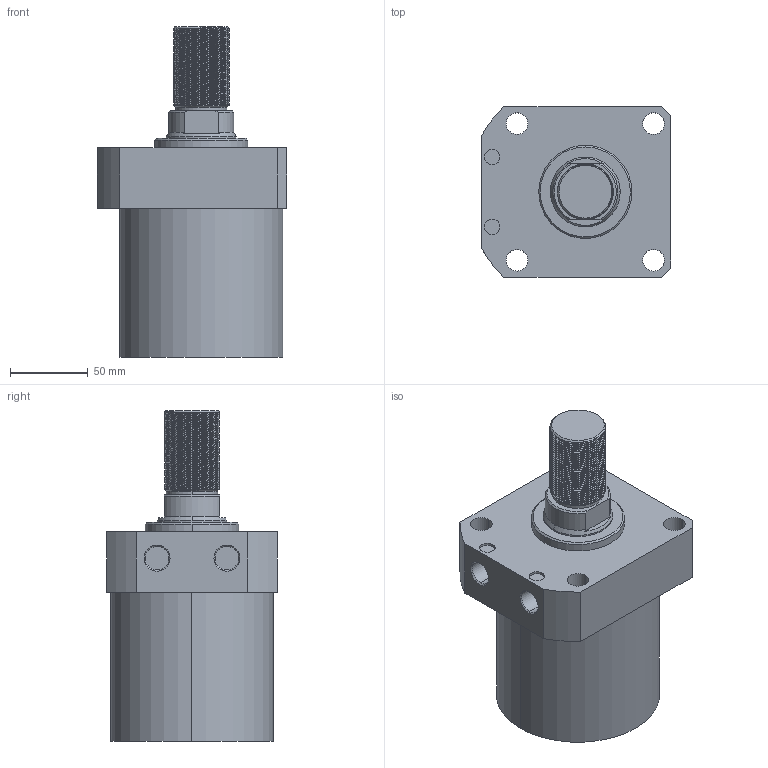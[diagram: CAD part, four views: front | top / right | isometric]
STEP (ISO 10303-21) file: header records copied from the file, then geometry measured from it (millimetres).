
FILE_DESCRIPTION (( 'STEP AP214' ), '1' );
FILE_NAME ('CLLR-105CT-075.STEP', '2020-01-09T08:11:21', ( 'Windows' ), ( 'Microsoft' ), 'SwSTEP 2.0', 'SolidWorks 2015', '' );
FILE_SCHEMA (( 'AUTOMOTIVE_DESIGN' ));
Length unit declared in the file: millimetre
Products named in the file (1): CLLR-105CT-075
Bounding box: 122 x 110 x 213 mm (x, y, z)
Volume: 1404391.5 mm3; surface area: 95674.7 mm2
Topology: 1 solids, 1 shells, 135 faces, 362 edges, 237 vertices
Faces by surface type: cylinder 97, plane 20, cone 16, bspline 2
Entity records: 7889 total; most frequent: CARTESIAN_POINT 4830, ORIENTED_EDGE 724, DIRECTION 556, EDGE_CURVE 362, VERTEX_POINT 237, AXIS2_PLACEMENT_3D 211, EDGE_LOOP 151, ADVANCED_FACE 135
